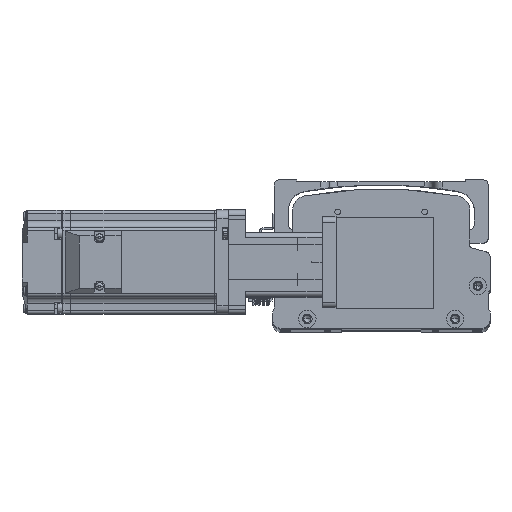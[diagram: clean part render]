
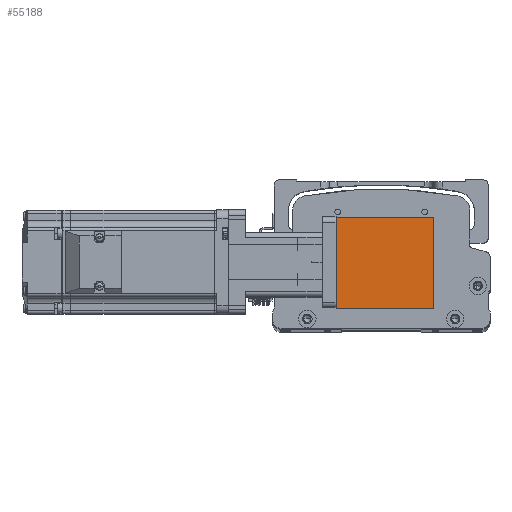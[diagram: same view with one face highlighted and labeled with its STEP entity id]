
A CAD part, top view. The second image highlights one B-rep face of the part: STEP entity #55188.
In plain terms, the highlighted planar face has unit normal (0, 0, 1) as drawn and (-1, 0, 0) by its records, which use the part's own axes.
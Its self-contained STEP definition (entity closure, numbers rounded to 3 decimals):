
#1095 = LINE ( 'NONE', #41085, #50014 ) ;
#2467 = PLANE ( 'NONE',  #17347 ) ;
#3797 = ORIENTED_EDGE ( 'NONE', *, *, #46291, .F. ) ;
#5600 = FACE_OUTER_BOUND ( 'NONE', #24736, .T. ) ;
#5938 = LINE ( 'NONE', #27132, #54865 ) ;
#8209 = DIRECTION ( 'NONE',  ( 0., -1., 0. ) ) ;
#10650 = VECTOR ( 'NONE', #39345, 1000. ) ;
#12026 = DIRECTION ( 'NONE',  ( 1., 0., 0. ) ) ;
#12637 = DIRECTION ( 'NONE',  ( 0., -1., 0. ) ) ;
#15049 = CARTESIAN_POINT ( 'NONE',  ( -31.5, -26., 0. ) ) ;
#15099 = VERTEX_POINT ( 'NONE', #33353 ) ;
#16014 = CARTESIAN_POINT ( 'NONE',  ( -31.5, 26., 0. ) ) ;
#16565 = CARTESIAN_POINT ( 'NONE',  ( -31.5, -26., 56. ) ) ;
#17347 = AXIS2_PLACEMENT_3D ( 'NONE', #16565, #12026, #45158 ) ;
#19422 = EDGE_CURVE ( 'NONE', #15099, #59185, #54260, .T. ) ;
#23305 = LINE ( 'NONE', #34550, #10650 ) ;
#24261 = CARTESIAN_POINT ( 'NONE',  ( -31.5, 26., 56. ) ) ;
#24513 = ORIENTED_EDGE ( 'NONE', *, *, #37126, .F. ) ;
#24736 = EDGE_LOOP ( 'NONE', ( #25814, #24513, #3797, #35850 ) ) ;
#25814 = ORIENTED_EDGE ( 'NONE', *, *, #50028, .T. ) ;
#27132 = CARTESIAN_POINT ( 'NONE',  ( -31.5, -26., 0. ) ) ;
#33353 = CARTESIAN_POINT ( 'NONE',  ( -31.5, 26., 56. ) ) ;
#34550 = CARTESIAN_POINT ( 'NONE',  ( -31.5, -26., 56. ) ) ;
#35850 = ORIENTED_EDGE ( 'NONE', *, *, #19422, .T. ) ;
#37062 = VERTEX_POINT ( 'NONE', #15049 ) ;
#37126 = EDGE_CURVE ( 'NONE', #37835, #37062, #23305, .T. ) ;
#37835 = VERTEX_POINT ( 'NONE', #60087 ) ;
#39345 = DIRECTION ( 'NONE',  ( 0., 0., -1. ) ) ;
#41085 = CARTESIAN_POINT ( 'NONE',  ( -31.5, -26., 56. ) ) ;
#45158 = DIRECTION ( 'NONE',  ( 0., 0., -1. ) ) ;
#46291 = EDGE_CURVE ( 'NONE', #15099, #37835, #1095, .T. ) ;
#47840 = DIRECTION ( 'NONE',  ( 0., 0., -1. ) ) ;
#50014 = VECTOR ( 'NONE', #12637, 1000. ) ;
#50028 = EDGE_CURVE ( 'NONE', #59185, #37062, #5938, .T. ) ;
#52800 = VECTOR ( 'NONE', #47840, 1000. ) ;
#54260 = LINE ( 'NONE', #24261, #52800 ) ;
#54865 = VECTOR ( 'NONE', #8209, 1000. ) ;
#55188 = ADVANCED_FACE ( 'NONE', ( #5600 ), #2467, .F. ) ;
#59185 = VERTEX_POINT ( 'NONE', #16014 ) ;
#60087 = CARTESIAN_POINT ( 'NONE',  ( -31.5, -26., 56. ) ) ;
